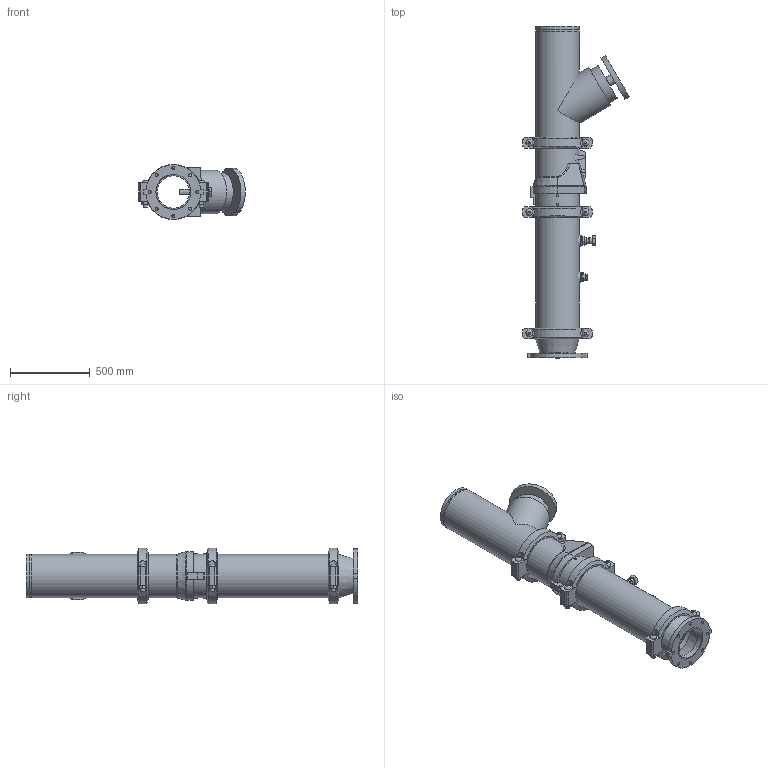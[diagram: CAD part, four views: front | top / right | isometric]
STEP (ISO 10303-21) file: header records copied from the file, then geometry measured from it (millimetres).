
FILE_DESCRIPTION(/* description */ ('VIC DVI PUMP DROP VERT S/383 (OGSxFLG) (S/924-1.25)','CAx-IF Rec.Pracs.---Representation and Presentation of Product Manufacturing Information (PMI)---4.0---2014-10-13'),/* implementation_level */ '2;1');
FILE_NAME(/* name */ 'C:\Users\Public\Documents\Victaulic.Temp\A849\Victaulic_IPS_Vertical DVI_CL 150_Series 383 (OGSxFLG)_924 (1.25)_10.0x08.0 (250x200).stp',/* time_stamp */ '2022-07-25T11:42:13+02:00',/* author */ ('Vjadhav'),/* organization */ ('Victaulic'),/* preprocessor_version */ 'ST-DEVELOPER v18',/* originating_system */ 'Autodesk Inventor 2020',/* authorisation */ '');
FILE_SCHEMA (('AP242_MANAGED_MODEL_BASED_3D_ENGINEERING_MIM_LF { 1 0 10303 442 1 1 4 }'));
Length unit declared in the file: inch
Products named in the file (9): 383_924 (1.25)-10.0x08.0; 741-08.0; 050-10.0x08.0; Pipe-10.0; 789-10.0; 779-10.0; 924-10.0x01.25; 923-10.0x0.75; 077-10.0
Assembly tree (10 placements, depth 2):
  383_924 (1.25)-10.0x08.0
    741-08.0
    050-10.0x08.0
    Pipe-10.0
    789-10.0
    779-10.0
    924-10.0x01.25
    923-10.0x0.75
    077-10.0  x3
Bounding box: 668.4 x 2081.28 x 344.9 mm (x, y, z)
Volume: 45090178.6 mm3; surface area: 5072329.4 mm2
Topology: 10 solids, 17 shells, 452 faces, 1122 edges, 769 vertices
Faces by surface type: plane 271, cylinder 148, cone 19, bspline 8, torus 6
Full cylindrical faces by diameter (mm): 13.716 x4, 19.05 x8, 21.336 x2, 25.4 x12, 26.67 x2, 27.432 x6, 38.608 x1, 42.164 x1, 45.974 x4, 48.514 x1, 55.626 x2, 60.96 x1, 76.2 x1, 202.717 x1, 214.401 x1, 219.075 x3, 237.49 x1, 254.508 x4, 264.16 x3, 268.275 x7, 273.05 x19, 299.974 x1
Entity records: 11270 total; most frequent: CARTESIAN_POINT 2196, DIRECTION 1858, ORIENTED_EDGE 1664, EDGE_CURVE 832, AXIS2_PLACEMENT_3D 711, VERTEX_POINT 573, LINE 436, VECTOR 436
